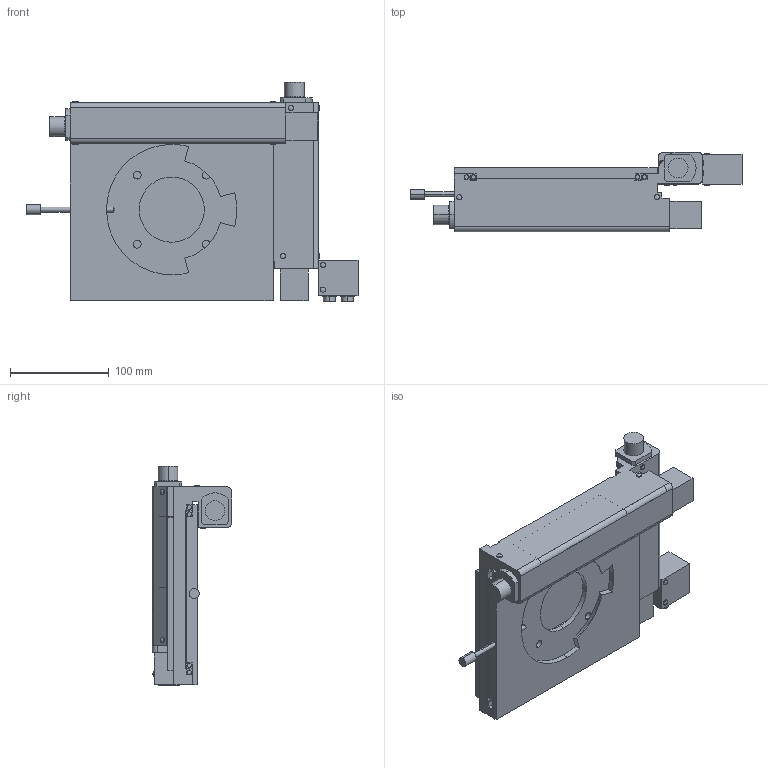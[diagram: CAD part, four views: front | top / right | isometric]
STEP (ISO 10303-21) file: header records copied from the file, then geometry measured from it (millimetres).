
FILE_DESCRIPTION (( 'STEP AP203' ), '1' );
FILE_NAME ('MSS-50WD-OB.STEP', '2023-04-21T05:49:23', ( '' ), ( '' ), 'SwSTEP 2.0', 'SolidWorks 2021', '' );
FILE_SCHEMA (( 'CONFIG_CONTROL_DESIGN' ));
Length unit declared in the file: millimetre
Products named in the file (6): MSS-50WD-OB-4; MSS-50WD-OB; MSS-50WD-OB-1; MSS-50WD-OB-2; MSS-50WD-OB-3; MSS-50WD-OB-5
Assembly tree (5 placements, depth 2):
  MSS-50WD-OB
    MSS-50WD-OB-1
    MSS-50WD-OB-2
    MSS-50WD-OB-3
    MSS-50WD-OB-4
    MSS-50WD-OB-5
Bounding box: 336 x 80.5 x 222.3 mm (x, y, z)
Volume: 1213802.8 mm3; surface area: 345743.6 mm2
Topology: 5 solids, 5 shells, 394 faces, 988 edges, 652 vertices
Faces by surface type: plane 228, cylinder 146, bspline 16, cone 4
Entity records: 15651 total; most frequent: CARTESIAN_POINT 5403, DIRECTION 1991, ORIENTED_EDGE 1972, EDGE_CURVE 986, VECTOR 675, LINE 675, AXIS2_PLACEMENT_3D 658, VERTEX_POINT 652
